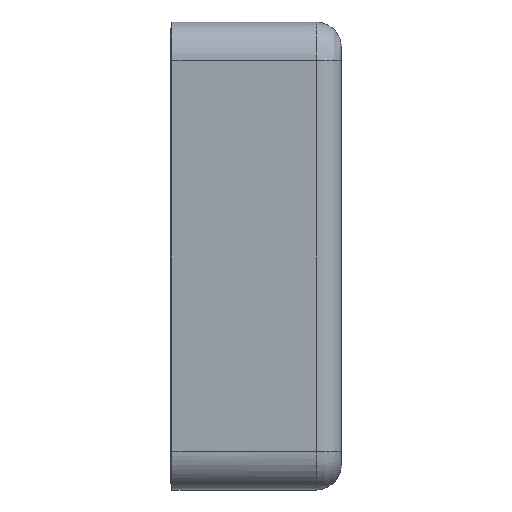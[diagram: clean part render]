
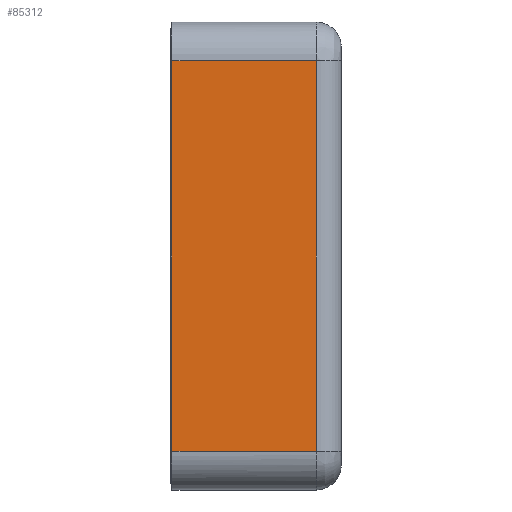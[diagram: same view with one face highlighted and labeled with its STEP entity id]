
A CAD part, left-side view. The second image highlights one B-rep face of the part: STEP entity #85312.
In plain terms, the highlighted planar face has unit normal (-1, 0, 0).
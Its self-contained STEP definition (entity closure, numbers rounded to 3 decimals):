
#3239 = VECTOR ( 'NONE', #41766, 39.37 ) ;
#6713 = VERTEX_POINT ( 'NONE', #74364 ) ;
#11391 = ORIENTED_EDGE ( 'NONE', *, *, #14292, .T. ) ;
#14292 = EDGE_CURVE ( 'NONE', #6713, #62251, #86518, .T. ) ;
#15422 = CARTESIAN_POINT ( 'NONE',  ( -11.818, 0.065, 7.779 ) ) ;
#24935 = CARTESIAN_POINT ( 'NONE',  ( -11.818, 0.065, -7.779 ) ) ;
#25443 = VERTEX_POINT ( 'NONE', #32633 ) ;
#26745 = VECTOR ( 'NONE', #62526, 39.37 ) ;
#29425 = PLANE ( 'NONE',  #30409 ) ;
#29475 = LINE ( 'NONE', #15422, #26745 ) ;
#30409 = AXIS2_PLACEMENT_3D ( 'NONE', #43138, #56272, #78601 ) ;
#30481 = EDGE_CURVE ( 'NONE', #6713, #25443, #40244, .T. ) ;
#32633 = CARTESIAN_POINT ( 'NONE',  ( -11.818, 0.165, -7.779 ) ) ;
#40244 = LINE ( 'NONE', #24935, #55603 ) ;
#41766 = DIRECTION ( 'NONE',  ( 0., 0., 1. ) ) ;
#43138 = CARTESIAN_POINT ( 'NONE',  ( -11.818, 0.065, -7.779 ) ) ;
#46487 = DIRECTION ( 'NONE',  ( 0., 0., 1. ) ) ;
#47846 = EDGE_CURVE ( 'NONE', #25443, #51915, #54470, .T. ) ;
#51744 = FACE_OUTER_BOUND ( 'NONE', #59459, .T. ) ;
#51915 = VERTEX_POINT ( 'NONE', #73752 ) ;
#52807 = CARTESIAN_POINT ( 'NONE',  ( -11.818, -5.575, 7.779 ) ) ;
#54470 = LINE ( 'NONE', #75163, #3239 ) ;
#55603 = VECTOR ( 'NONE', #85224, 39.37 ) ;
#56272 = DIRECTION ( 'NONE',  ( -1., 0., 0. ) ) ;
#58397 = CARTESIAN_POINT ( 'NONE',  ( -11.818, -5.575, -7.779 ) ) ;
#59459 = EDGE_LOOP ( 'NONE', ( #83965, #11391, #71273, #73375 ) ) ;
#62251 = VERTEX_POINT ( 'NONE', #52807 ) ;
#62526 = DIRECTION ( 'NONE',  ( 0., 1., 0. ) ) ;
#71273 = ORIENTED_EDGE ( 'NONE', *, *, #74117, .T. ) ;
#73375 = ORIENTED_EDGE ( 'NONE', *, *, #47846, .F. ) ;
#73752 = CARTESIAN_POINT ( 'NONE',  ( -11.818, 0.165, 7.779 ) ) ;
#74117 = EDGE_CURVE ( 'NONE', #62251, #51915, #29475, .T. ) ;
#74364 = CARTESIAN_POINT ( 'NONE',  ( -11.818, -5.575, -7.779 ) ) ;
#75163 = CARTESIAN_POINT ( 'NONE',  ( -11.818, 0.165, -7.779 ) ) ;
#78601 = DIRECTION ( 'NONE',  ( 0., 0., 1. ) ) ;
#83965 = ORIENTED_EDGE ( 'NONE', *, *, #30481, .F. ) ;
#85224 = DIRECTION ( 'NONE',  ( 0., 1., 0. ) ) ;
#85312 = ADVANCED_FACE ( 'NONE', ( #51744 ), #29425, .T. ) ;
#86017 = VECTOR ( 'NONE', #46487, 39.37 ) ;
#86518 = LINE ( 'NONE', #58397, #86017 ) ;
